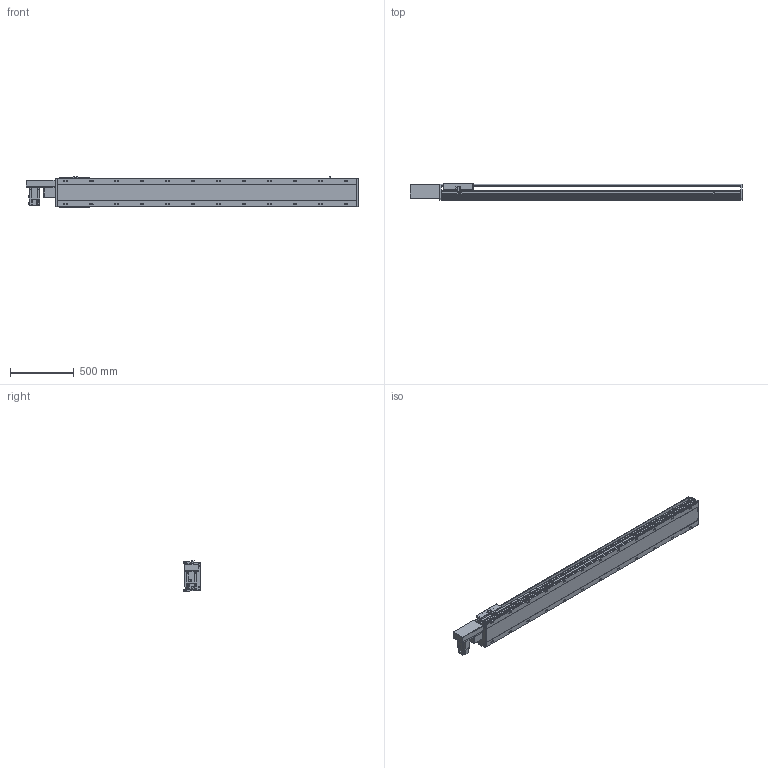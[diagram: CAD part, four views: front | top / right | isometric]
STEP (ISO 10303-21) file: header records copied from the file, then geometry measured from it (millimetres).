
FILE_DESCRIPTION(/* description */ ('STEP AP214'),/* implementation_level */ '2;1');
FILE_NAME(/* name */ 'PBS220-P40-S2000-R-T75-C1-N(0)',/* time_stamp */ '2022-06-11T10:02:16+02:00',/* author */ ('License CC BY-ND 4.0'),/* organization */ ('CADENAS'),/* preprocessor_version */ 'ST-DEVELOPER v18.102',/* originating_system */ 'PARTsolutions',/* authorisation */ ' ');
FILE_SCHEMA (('AUTOMOTIVE_DESIGN {1 0 10303 214 3 1 1}'));
Length unit declared in the file: millimetre
Products named in the file (7): PBS220-P40-S2000-R-T75-C1-N(0); PBS220_sensor; PBS220_plant; PBS220_sliser; T75-p1; PBS220T-R_motors; PBS220-S2000()_body
Assembly tree (8 placements, depth 2):
  PBS220-P40-S2000-R-T75-C1-N(0)
    PBS220_sensor  x3
    PBS220_plant
    PBS220_sliser
    T75-p1
    PBS220T-R_motors
    PBS220-S2000()_body
Bounding box: 2606 x 134 x 238.5 mm (x, y, z)
Volume: 34929204.9 mm3; surface area: 3244970.9 mm2
Topology: 8 solids, 8 shells, 962 faces, 2508 edges, 1630 vertices
Faces by surface type: plane 614, cylinder 300, cone 48
Full cylindrical faces by diameter (mm): 2.013 x4, 4.5 x14, 4.917 x4, 6 x7, 6.647 x8, 8 x10, 8.376 x24, 8.5 x24, 10 x6, 14 x24, 38 x2, 40 x1, 70 x1
Entity records: 26877 total; most frequent: CARTESIAN_POINT 4756, DIRECTION 4671, ORIENTED_EDGE 4250, EDGE_CURVE 2125, AXIS2_PLACEMENT_3D 1659, VERTEX_POINT 1480, LINE 1353, VECTOR 1353
